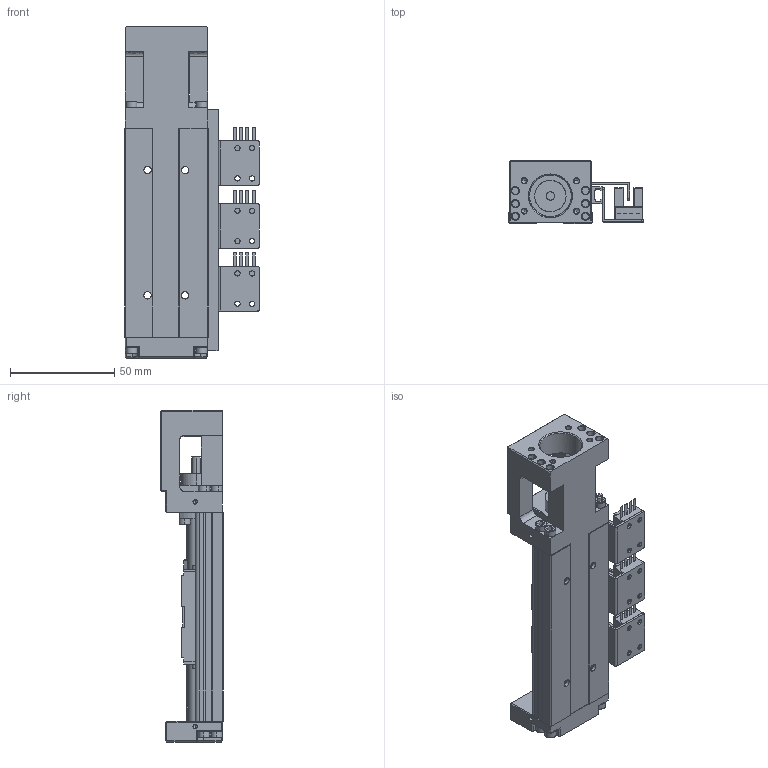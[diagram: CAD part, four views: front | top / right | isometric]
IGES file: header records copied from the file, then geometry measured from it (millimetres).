
Start section: SolidWorks IGES file using analytic representation for surfaces
Bounding box: 64.55 x 30 x 159 mm (x, y, z)
Surface area: 52643.3 mm2 (no closed solid volume)
Topology: 0 solids, 0 shells, 1135 faces, 13170 edges, 13088 vertices
Faces by surface type: bspline 647, revolution 488
